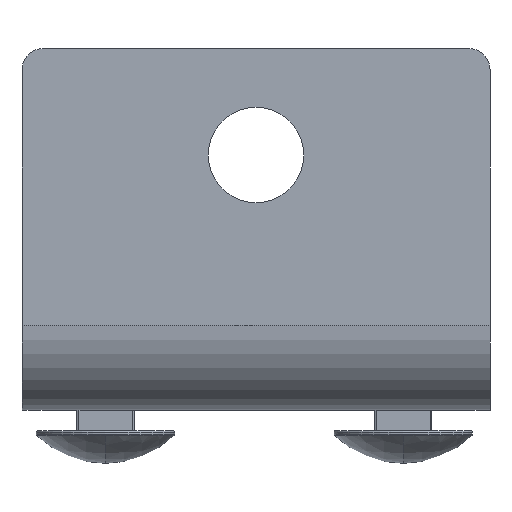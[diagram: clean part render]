
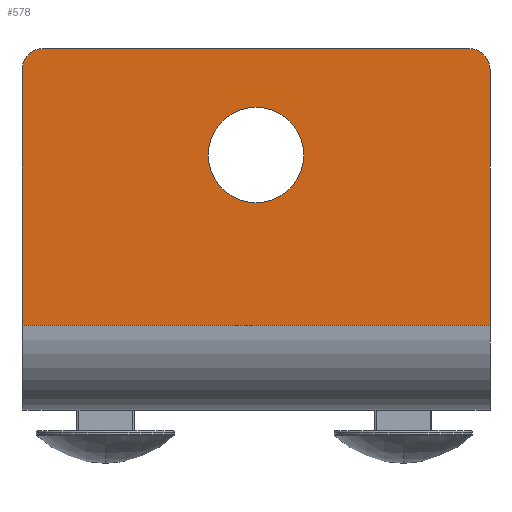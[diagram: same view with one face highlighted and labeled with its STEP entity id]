
A CAD part, front view. The second image highlights one B-rep face of the part: STEP entity #578.
In plain terms, the highlighted planar face has unit normal (0, -1, 0).
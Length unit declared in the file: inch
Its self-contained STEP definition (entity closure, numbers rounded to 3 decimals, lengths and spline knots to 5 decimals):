
#5=CARTESIAN_POINT('',(1.75,-1.0625,1.25));
#6=DIRECTION('',(0.,1.,0.));
#7=DIRECTION('',(0.,0.,1.));
#8=AXIS2_PLACEMENT_3D('',#5,#6,#7);
#10=CARTESIAN_POINT('',(1.75,-1.0625,-1.25));
#11=DIRECTION('',(0.,1.,0.));
#12=DIRECTION('',(1.,0.,0.));
#13=AXIS2_PLACEMENT_3D('',#10,#11,#12);
#15=CARTESIAN_POINT('',(1.25,-1.0625,0.));
#16=DIRECTION('',(0.,-1.,0.));
#17=DIRECTION('',(1.,0.,0.));
#18=AXIS2_PLACEMENT_3D('',#15,#16,#17);
#20=CARTESIAN_POINT('',(1.25,-1.0625,0.));
#21=DIRECTION('',(0.,-1.,0.));
#22=DIRECTION('',(0.,0.,1.));
#23=AXIS2_PLACEMENT_3D('',#20,#21,#22);
#25=CARTESIAN_POINT('',(1.25,-1.0625,0.));
#26=DIRECTION('',(0.,-1.,0.));
#27=DIRECTION('',(0.,0.,-1.));
#28=AXIS2_PLACEMENT_3D('',#25,#26,#27);
#34=DIRECTION('',(1.,0.,0.));
#35=VECTOR('',#34,1.5);
#36=CARTESIAN_POINT('',(0.25,-1.0625,-1.375));
#37=LINE('',#36,#35);
#70=DIRECTION('',(0.,0.,1.));
#71=VECTOR('',#70,2.5);
#72=CARTESIAN_POINT('',(1.875,-1.0625,-1.25));
#73=LINE('',#72,#71);
#82=DIRECTION('',(-1.,0.,0.));
#83=VECTOR('',#82,1.5);
#84=CARTESIAN_POINT('',(1.75,-1.0625,1.375));
#85=LINE('',#84,#83);
#104=DIRECTION('',(0.,0.,-1.));
#105=VECTOR('',#104,2.75);
#106=CARTESIAN_POINT('',(0.25,-1.0625,1.375));
#107=LINE('',#106,#105);
#414=CARTESIAN_POINT('',(1.25,-1.0625,0.28));
#415=CARTESIAN_POINT('',(1.25,-1.0625,-0.28));
#416=VERTEX_POINT('',#414);
#417=VERTEX_POINT('',#415);
#422=CARTESIAN_POINT('',(0.25,-1.0625,-1.375));
#423=CARTESIAN_POINT('',(1.75,-1.0625,-1.375));
#424=VERTEX_POINT('',#422);
#425=VERTEX_POINT('',#423);
#426=CARTESIAN_POINT('',(0.25,-1.0625,1.375));
#427=VERTEX_POINT('',#426);
#428=CARTESIAN_POINT('',(1.75,-1.0625,1.375));
#429=VERTEX_POINT('',#428);
#430=CARTESIAN_POINT('',(1.875,-1.0625,1.25));
#431=VERTEX_POINT('',#430);
#432=CARTESIAN_POINT('',(1.875,-1.0625,-1.25));
#433=VERTEX_POINT('',#432);
#434=CARTESIAN_POINT('',(1.53,-1.0625,0.));
#435=VERTEX_POINT('',#434);
#552=CARTESIAN_POINT('',(0.,-1.0625,0.));
#553=DIRECTION('',(0.,1.,0.));
#554=DIRECTION('',(-1.,0.,0.));
#555=AXIS2_PLACEMENT_3D('',#552,#553,#554);
#556=PLANE('',#555);
#558=ORIENTED_EDGE('',*,*,#557,.F.);
#560=ORIENTED_EDGE('',*,*,#559,.F.);
#562=ORIENTED_EDGE('',*,*,#561,.F.);
#564=ORIENTED_EDGE('',*,*,#563,.T.);
#566=ORIENTED_EDGE('',*,*,#565,.F.);
#568=ORIENTED_EDGE('',*,*,#567,.T.);
#569=EDGE_LOOP('',(#558,#560,#562,#564,#566,#568));
#570=FACE_OUTER_BOUND('',#569,.F.);
#572=ORIENTED_EDGE('',*,*,#571,.T.);
#573=ORIENTED_EDGE('',*,*,#541,.T.);
#575=ORIENTED_EDGE('',*,*,#574,.T.);
#576=EDGE_LOOP('',(#572,#573,#575));
#577=FACE_BOUND('',#576,.F.);
#9=CIRCLE('',#8,0.125);
#14=CIRCLE('',#13,0.125);
#19=CIRCLE('',#18,0.28);
#24=CIRCLE('',#23,0.28);
#29=CIRCLE('',#28,0.28);
#541=EDGE_CURVE('',#416,#417,#24,.T.);
#557=EDGE_CURVE('',#424,#425,#37,.T.);
#559=EDGE_CURVE('',#427,#424,#107,.T.);
#561=EDGE_CURVE('',#429,#427,#85,.T.);
#563=EDGE_CURVE('',#429,#431,#9,.T.);
#565=EDGE_CURVE('',#433,#431,#73,.T.);
#567=EDGE_CURVE('',#433,#425,#14,.T.);
#571=EDGE_CURVE('',#435,#416,#19,.T.);
#574=EDGE_CURVE('',#417,#435,#29,.T.);
#578=ADVANCED_FACE('',(#570,#577),#556,.F.);
